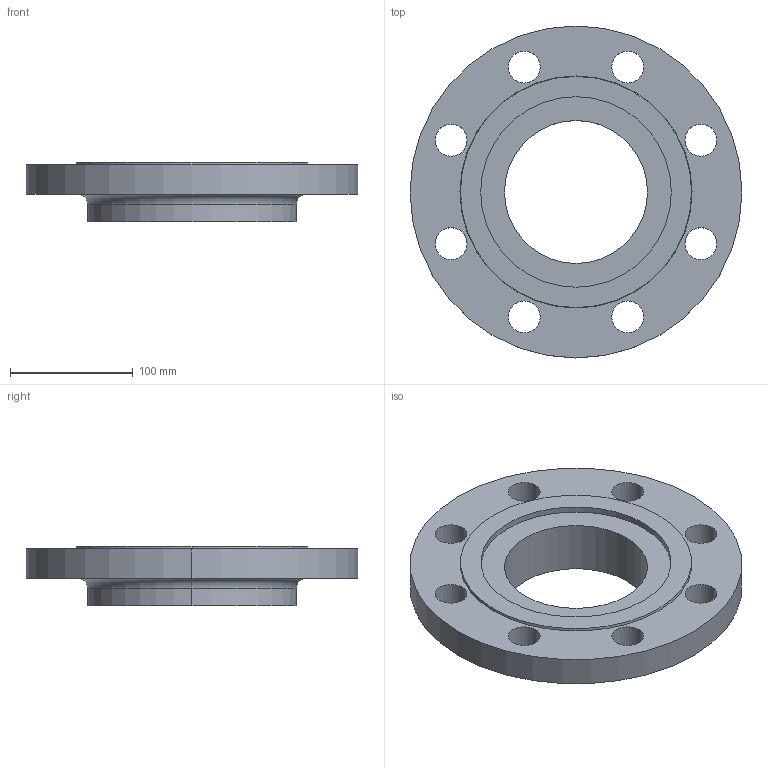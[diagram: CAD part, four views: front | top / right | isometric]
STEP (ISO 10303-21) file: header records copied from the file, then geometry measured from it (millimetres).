
FILE_DESCRIPTION (( 'STEP AP214' ), '1' );
FILE_NAME ('PN40 DN125 Type 13 - Type G Face.STEP', '2019-01-02T02:08:01', ( '' ), ( '' ), 'SwSTEP 2.0', 'SolidWorks 2019', '' );
FILE_SCHEMA (( 'AUTOMOTIVE_DESIGN' ));
Length unit declared in the file: millimetre
Products named in the file (1): PN40 DN125 Type 13 - Type G Face
Bounding box: 270 x 270 x 48 mm (x, y, z)
Volume: 1283315.1 mm3; surface area: 149884 mm2
Topology: 1 solids, 1 shells, 33 faces, 82 edges, 54 vertices
Faces by surface type: cylinder 24, plane 5, torus 2, cone 2
Entity records: 1086 total; most frequent: DIRECTION 206, CARTESIAN_POINT 170, ORIENTED_EDGE 164, AXIS2_PLACEMENT_3D 90, EDGE_CURVE 82, CIRCLE 56, VERTEX_POINT 54, EDGE_LOOP 54
